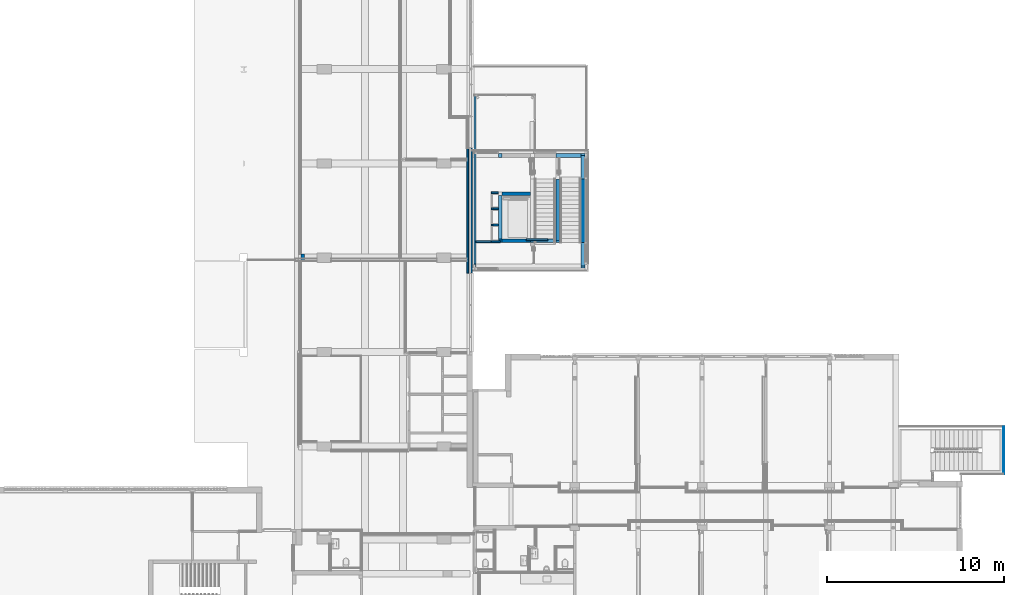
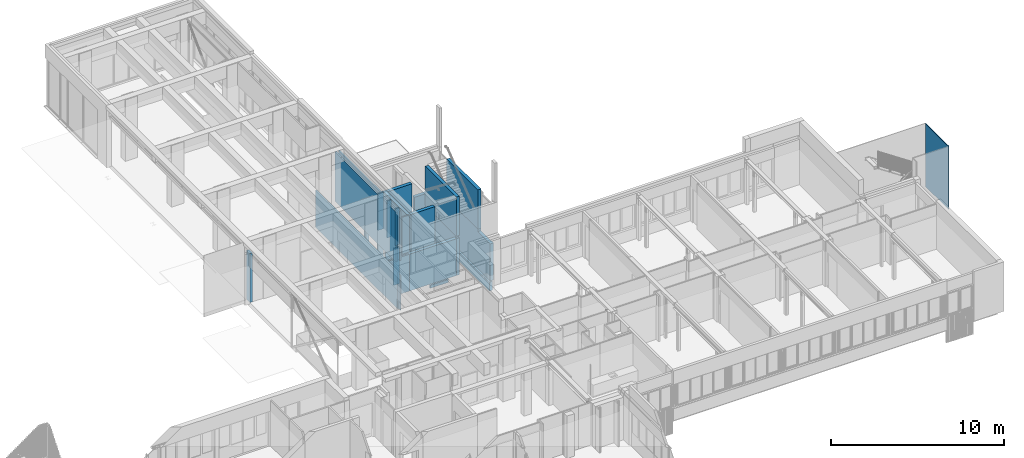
# One storey, part 70 of 117: 26 walls, 1 opening.
"""IFC2X3 building model written with IfcOpenShell, lengths in millimetres."""

from ifc_helpers import new_model, entity, si_unit, converted_unit, derived_unit, money_unit, direction, frame, origin_with_axes, place, context, subcontext, project, spatial, faceted_brep, material, type_object, element, save


model = new_model("IFC2X3")

# Units and contexts
model_context = context("Model", 3, precision=0.01, world=origin_with_axes(), true_north=direction((0.0, 1.0)))
body_context = subcontext(model_context, "Body", "Model", "MODEL_VIEW")
ifc_project = project(units=[si_unit("LENGTHUNIT", "METRE", prefix="MILLI"), si_unit("AREAUNIT", "SQUARE_METRE"), si_unit("VOLUMEUNIT", "CUBIC_METRE"), converted_unit("PLANEANGLEUNIT", "DEGREE", entity("IfcPlaneAngleMeasure", 0.0174532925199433), si_unit("PLANEANGLEUNIT", "RADIAN"), dimensions=[0, 0, 0, 0, 0, 0, 0]), money_unit("EUR"), converted_unit("TIMEUNIT", "Year", entity("IfcTimeMeasure", 31557600.0), si_unit("TIMEUNIT", "SECOND"), dimensions=[0, 0, 1, 0, 0, 0, 0]), si_unit("MASSUNIT", "GRAM", prefix="KILO"), si_unit("THERMODYNAMICTEMPERATUREUNIT", "DEGREE_CELSIUS"), si_unit("LUMINOUSINTENSITYUNIT", "LUMEN"), si_unit("ENERGYUNIT", "JOULE", prefix="MEGA"), derived_unit("THERMALCONDUCTANCEUNIT", [(si_unit("POWERUNIT", "WATT"), 1), (si_unit("LENGTHUNIT", "METRE"), -1), (si_unit("THERMODYNAMICTEMPERATUREUNIT", "KELVIN"), -1)]), derived_unit("SPECIFICHEATCAPACITYUNIT", [(si_unit("ENERGYUNIT", "JOULE"), 1), (si_unit("MASSUNIT", "GRAM", prefix="KILO"), -1), (si_unit("THERMODYNAMICTEMPERATUREUNIT", "KELVIN"), -1)]), derived_unit("MASSDENSITYUNIT", [(si_unit("MASSUNIT", "GRAM", prefix="KILO"), 1), (si_unit("VOLUMEUNIT", "CUBIC_METRE"), -1)])], contexts=[model_context])

# Site, building, storey
site_placement = place(None, origin_with_axes())
site = spatial("IfcSite", under=ifc_project, at=site_placement, Name="Site", CompositionType="ELEMENT")
building_placement = place(site_placement, origin_with_axes())
building = spatial("IfcBuilding", under=site, at=building_placement, Name="Naam gebouw", CompositionType="ELEMENT")
storey_placement = place(building_placement, frame((0.0, 0.0, 4150.0), z_axis=(0.0, 0.0, 1.0), x_axis=(1.0, 0.0, 0.0)))
storey = spatial("IfcBuildingStorey", under=building, at=storey_placement, Name="1e verdieping N", CompositionType="ELEMENT", Elevation=4150.0)

# Walls
ifc_material_1 = material(Name="ALG - CONSTRUCTIEF")
wall_type_1 = type_object("IfcWallType", Name="ALG - CONSTRUCTIEF 400", PredefinedType="NOTDEFINED")
wall_1_placement = place(storey_placement, frame((20536.0, 33285.91242510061, -299.9999999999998), z_axis=(0.0, 0.0, 1.0), x_axis=(1.0, 0.0, 0.0)))
element("IfcWall", 1, at=wall_1_placement, inside=storey, type_object=wall_type_1, material=ifc_material_1, Name="_Wand-x", context=body_context, shape_type="Brep", body=[
    faceted_brep([(0.0, 200.0000000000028, 299.9999999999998), (0.0, 200.0000000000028, 3749.999999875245), (189.0000000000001, 200.0000000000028, 3749.999999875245), (189.0000000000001, 200.0000000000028, 299.9999999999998), (0.0, -200.0000000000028, 299.9999999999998), (0.0, -200.0000000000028, 3749.999999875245), (189.0000000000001, -200.0000000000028, 3749.999999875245), (189.0000000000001, -200.0000000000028, 299.9999999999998)], [[[0, 1, 2, 3]], [[4, 5, 1, 0]], [[5, 6, 2, 1]], [[3, 2, 6, 7]], [[7, 4, 0, 3]], [[7, 6, 5, 4]]]),
])
ifc_material_2 = material(Name="Steen - Betonblok")
wall_type_2 = type_object("IfcWallType", Name="Steen - Betonblok 100", PredefinedType="NOTDEFINED")
wall_2_placement = place(storey_placement, frame((30136.0, 32415.9124251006, 0.0), z_axis=(0.0, 0.0, 1.0), x_axis=(0.0, 1.0, 0.0)))
element("IfcWall", 2, at=wall_2_placement, inside=storey, type_object=wall_type_2, material=ifc_material_2, Name="_Wand-x", context=body_context, shape_type="Brep", body=[
    faceted_brep([(7070.000000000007, -100.0000000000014, 3500.0), (0.0, -100.0000000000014, 3500.0), (0.0, -100.0000000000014, 0.0), (7070.000000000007, -100.0000000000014, 0.0), (6764.000001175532, -100.0000000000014, 1770.00000000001), (6764.000001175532, -100.0000000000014, 1600.00000000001), (296.0000011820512, -100.0000000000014, 1600.00000000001), (296.0000011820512, -100.0000000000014, 1770.00000000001), (7070.000000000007, 0.0, 3500.0), (0.0, 0.0, 3500.0), (0.0, 0.0, 0.0), (7070.000000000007, 0.0, 0.0), (6764.000001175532, -55.00000004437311, 1770.00000000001), (6764.000001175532, -55.00000004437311, 1600.00000000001), (296.0000011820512, -55.00000004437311, 1600.00000000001), (296.0000011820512, -55.00000004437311, 1770.00000000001)], [[[0, 1, 2, 3], [4, 5, 6, 7]], [[8, 9, 1, 0]], [[2, 1, 9, 10]], [[3, 2, 10, 11]], [[8, 0, 3, 11]], [[12, 13, 5, 4]], [[13, 14, 6, 5]], [[14, 15, 7, 6]], [[15, 12, 4, 7]], [[11, 10, 9, 8]], [[15, 14, 13, 12]]]),
])
wall_3_placement = place(storey_placement, frame((30006.0, 32415.9124251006, 0.0), z_axis=(0.0, 0.0, 1.0), x_axis=(0.0, 1.0, 0.0)))
element("IfcWall", 3, at=wall_3_placement, inside=storey, type_object=wall_type_2, material=ifc_material_2, Name="_Wand-x", context=body_context, shape_type="Brep", body=[
    faceted_brep([(7070.000000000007, 100.0000000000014, 3499.999999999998), (6400.000000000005, 100.0000000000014, 3499.999999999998), (6400.000000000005, 0.0, 3499.999999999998), (7070.000000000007, 0.0, 3499.999999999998), (6000.0, 100.0000000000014, 3450.0), (6400.000000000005, 100.0000000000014, 3450.0), (7070.000000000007, 100.0000000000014, 0.0), (0.0, 100.0000000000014, 0.0), (0.0, 100.0000000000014, 3499.999999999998), (670.0000000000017, 100.0000000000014, 3499.999999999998), (670.0000000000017, 100.0000000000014, 3449.999999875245), (1070.000000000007, 100.0000000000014, 3449.999999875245), (1070.000000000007, 100.0000000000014, 3499.999999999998), (6000.0, 100.0000000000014, 3499.999999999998), (6400.000000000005, 0.0, 3450.0), (6000.0, 0.0, 3450.0), (6000.0, 0.0, 3499.999999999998), (1070.000000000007, 0.0, 3499.999999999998), (1070.000000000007, 0.0, 3449.999999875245), (670.0000000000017, 0.0, 3449.999999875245), (670.0000000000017, 0.0, 3499.999999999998), (0.0, 0.0, 3499.999999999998), (0.0, 0.0, 0.0), (7070.000000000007, 0.0, 0.0)], [[[0, 1, 2, 3]], [[4, 5, 1, 0, 6, 7, 8, 9, 10, 11, 12, 13]], [[5, 14, 2, 1]], [[14, 15, 16, 17, 18, 19, 20, 21, 22, 23, 3, 2]], [[6, 0, 3, 23]], [[4, 15, 14, 5]], [[22, 7, 6, 23]], [[7, 22, 21, 8]], [[21, 20, 9, 8]], [[10, 9, 20, 19]], [[10, 19, 18, 11]], [[11, 18, 17, 12]], [[17, 16, 13, 12]], [[4, 13, 16, 15]]]),
])
ifc_material_3 = material(Name="ALG - ONTWERPWAND")
wall_type_3 = type_object("IfcWallType", Name="ALG - ONTWERPWAND 50", PredefinedType="NOTDEFINED")
wall_4_placement = place(storey_placement, frame((60214.99999999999, 21090.9124251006, 0.0), z_axis=(0.0, 0.0, 1.0), x_axis=(0.0, 1.0, 0.0)))
element("IfcWall", 4, at=wall_4_placement, inside=storey, type_object=wall_type_3, material=ifc_material_3, Name="_Wand-x", context=body_context, shape_type="Brep", body=[
    faceted_brep([(2630.000000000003, -49.99999999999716, 4439.999999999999), (2630.000000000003, 0.0, 4439.999999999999), (-50.00000000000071, 0.0, 4439.999999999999), (-50.00000000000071, -49.99999999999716, 4439.999999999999), (2630.000000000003, -49.99999999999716, 0.0), (2630.000000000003, 0.0, 0.0), (-50.00000000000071, 0.0, 0.0), (-50.00000000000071, -49.99999999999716, 0.0)], [[[0, 1, 2, 3]], [[1, 0, 4, 5]], [[1, 5, 6, 2]], [[7, 3, 2, 6]], [[4, 0, 3, 7]], [[5, 4, 7, 6]]]),
])
ifc_material_4 = material(Name="kalkzandsteen")
wall_type_4 = type_object("IfcWallType", Name="Basic Wall:NLRS_28_kalkzandsteen 100mm", PredefinedType="STANDARD")
wall_5_placement = place(storey_placement, frame((31792.00000003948, 36049.91242632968, -3770.00000000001), z_axis=(0.0, 0.0, 1.0), x_axis=(-1.0, 0.0, 0.0)))
element("IfcWall", 5, at=wall_5_placement, inside=storey, type_object=wall_type_4, material=ifc_material_4, Name="Basic Wall:NLRS_28_kalkzandsteen 100mm", context=body_context, shape_type="Brep", body=[
    faceted_brep([(106.999999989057, 49.99999998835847, 0.0), (500.0, 49.99999998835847, 0.0), (500.0, -50.00000004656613, 0.0), (106.999999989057, -50.00000004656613, 0.0), (106.999999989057, 49.99999998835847, 2600.000000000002), (500.0, 49.99999998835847, 2600.000000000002), (500.0, -50.00000004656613, 2600.000000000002), (106.999999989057, -50.00000004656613, 2600.000000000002)], [[[0, 1, 2, 3]], [[4, 5, 1, 0]], [[2, 1, 5, 6]], [[3, 2, 6, 7]], [[4, 0, 3, 7]], [[7, 6, 5, 4]]]),
])
wall_6_placement = place(storey_placement, frame((31685.00000002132, 36963.91242631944, -3770.00000000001), z_axis=(0.0, 0.0, 1.0), x_axis=(-1.0, 0.0, 0.0)))
element("IfcWall", 6, at=wall_6_placement, inside=storey, type_object=wall_type_4, material=ifc_material_4, Name="Basic Wall:NLRS_28_kalkzandsteen 100mm", context=body_context, shape_type="Brep", body=[
    faceted_brep([(0.0, 50.00000004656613, 0.0), (393.000000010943, 50.00000004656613, 0.0), (393.000000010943, -50.00000004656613, 0.0), (0.0, -50.00000004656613, 0.0), (0.0, 50.00000004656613, 2600.000000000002), (393.000000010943, 50.00000004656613, 2600.000000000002), (393.000000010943, -50.00000004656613, 2600.000000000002), (0.0, -50.00000004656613, 2600.000000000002)], [[[0, 1, 2, 3]], [[4, 5, 1, 0]], [[2, 1, 5, 6]], [[3, 2, 6, 7]], [[4, 0, 3, 7]], [[7, 6, 5, 4]]]),
])
wall_7_placement = place(storey_placement, frame((34475.00000002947, 34302.91242629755, -4150.000000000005), z_axis=(0.0, 0.0, 1.0), x_axis=(-1.0, 0.0, 0.0)))
element("IfcWall", 7, at=wall_7_placement, inside=storey, type_object=wall_type_4, material=ifc_material_4, Name="Basic Wall:NLRS_28_kalkzandsteen 100mm", context=body_context, shape_type="Brep", body=[
    faceted_brep([(-2.387423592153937e-09, 50.00000004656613, 0.0), (1219.999999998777, 50.00000010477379, 0.0), (1220.000000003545, -49.99999998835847, 0.0), (2.380318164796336e-09, -50.00000004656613, 0.0), (-2.387423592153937e-09, 50.00000004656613, 209.9999999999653), (1219.999999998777, 50.00000010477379, 209.9999999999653), (1220.000000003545, -49.99999998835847, 209.9999999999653), (2.380318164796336e-09, -50.00000004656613, 209.9999999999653)], [[[0, 1, 2, 3]], [[4, 5, 1, 0]], [[2, 1, 5, 6]], [[3, 2, 6, 7]], [[4, 0, 3, 7]], [[7, 6, 5, 4]]]),
])
wall_8_placement = place(storey_placement, frame((31792.00000003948, 35135.91242628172, -1000.0), z_axis=(0.0, 0.0, 1.0), x_axis=(-1.0, 1.293503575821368e-10, 0.0)))
element("IfcWall", 8, at=wall_8_placement, inside=storey, type_object=wall_type_4, material=ifc_material_4, Name="Basic Wall:NLRS_28_kalkzandsteen 100mm", context=body_context, shape_type="Brep", body=[
    faceted_brep([(399.9999999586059, 50.00000009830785, 0.0), (399.9999999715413, -49.99999999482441, 0.0), (106.9999999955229, -50.00000003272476, 0.0), (106.9999999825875, 50.0000000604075, 0.0), (399.9999999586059, 50.00000009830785, 2600.000000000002), (399.9999999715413, -49.99999999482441, 2600.000000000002), (106.9999999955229, -50.00000003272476, 2600.000000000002), (106.9999999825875, 50.0000000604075, 2600.000000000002)], [[[0, 1, 2, 3]], [[1, 0, 4, 5]], [[1, 5, 6, 2]], [[7, 3, 2, 6]], [[4, 0, 3, 7]], [[5, 4, 7, 6]]]),
])
wall_9_placement = place(storey_placement, frame((31792.00000003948, 36049.91242632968, -1000.0), z_axis=(0.0, 0.0, 1.0), x_axis=(-1.0, 0.0, 0.0)))
element("IfcWall", 9, at=wall_9_placement, inside=storey, type_object=wall_type_4, material=ifc_material_4, Name="Basic Wall:NLRS_28_kalkzandsteen 100mm", context=body_context, shape_type="Brep", body=[
    faceted_brep([(399.9999999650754, 50.00000004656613, 0.0), (399.9999999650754, -50.00000004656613, 0.0), (106.999999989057, -50.00000004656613, 0.0), (106.999999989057, 50.00000004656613, 0.0), (399.9999999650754, 50.00000004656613, 2600.000000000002), (399.9999999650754, -50.00000004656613, 2600.000000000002), (106.999999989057, -50.00000004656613, 2600.000000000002), (106.999999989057, 50.00000004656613, 2600.000000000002)], [[[0, 1, 2, 3]], [[1, 0, 4, 5]], [[1, 5, 6, 2]], [[7, 3, 2, 6]], [[4, 0, 3, 7]], [[5, 4, 7, 6]]]),
])
wall_10_placement = place(storey_placement, frame((31685.00000002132, 36963.91242631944, -1000.0), z_axis=(0.0, 0.0, 1.0), x_axis=(-1.0, 0.0, 0.0)))
element("IfcWall", 10, at=wall_10_placement, inside=storey, type_object=wall_type_4, material=ifc_material_4, Name="Basic Wall:NLRS_28_kalkzandsteen 100mm", context=body_context, shape_type="Brep", body=[
    faceted_brep([(392.9999999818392, 50.00000004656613, 0.0), (392.9999999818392, -50.00000004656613, 0.0), (0.0, -50.00000004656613, 0.0), (0.0, 50.00000004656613, 0.0), (392.9999999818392, 50.00000004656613, 2600.000000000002), (392.9999999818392, -50.00000004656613, 2600.000000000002), (0.0, -50.00000004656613, 2600.000000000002), (0.0, 50.00000004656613, 2600.000000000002)], [[[0, 1, 2, 3]], [[1, 0, 4, 5]], [[1, 5, 6, 2]], [[7, 3, 2, 6]], [[4, 0, 3, 7]], [[5, 4, 7, 6]]]),
])
wall_11_placement = place(storey_placement, frame((31792.00000003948, 34195.91242627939, -3770.00000000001), z_axis=(0.0, 0.0, 1.0), x_axis=(-1.0, 0.0, 0.0)))
element("IfcWall", 11, at=wall_11_placement, inside=storey, type_object=wall_type_4, material=ifc_material_4, Name="Basic Wall:NLRS_28_kalkzandsteen 100mm", context=body_context, shape_type="Brep", body=[
    faceted_brep([(1381.000000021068, 49.99999999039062, 0.0), (1381.000000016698, -50.00000004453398, 0.0), (-2.035704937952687e-09, -49.99999998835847, 0.0), (2.032152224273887e-09, 50.00000004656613, 0.0), (1381.000000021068, 49.99999999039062, 2600.000000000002), (1381.000000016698, -50.00000004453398, 2600.000000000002), (-2.035704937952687e-09, -49.99999998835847, 2600.000000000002), (2.032152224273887e-09, 50.00000004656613, 2600.000000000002)], [[[0, 1, 2, 3]], [[1, 0, 4, 5]], [[1, 5, 6, 2]], [[7, 3, 2, 6]], [[4, 0, 3, 7]], [[5, 4, 7, 6]]]),
])
wall_12_placement = place(storey_placement, frame((31792.00000003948, 34195.91242627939, -1000.0), z_axis=(0.0, 0.0, 1.0), x_axis=(-1.0, 0.0, 0.0)))
element("IfcWall", 12, at=wall_12_placement, inside=storey, type_object=wall_type_4, material=ifc_material_4, Name="Basic Wall:NLRS_28_kalkzandsteen 100mm", context=body_context, shape_type="Brep", body=[
    faceted_brep([(500.0, 50.00000004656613, 0.0), (500.0, -49.99999998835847, 0.0), (0.0, -49.99999998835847, 0.0), (0.0, 50.00000004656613, 0.0), (500.0, 50.00000004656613, 2600.000000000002), (500.0, -49.99999998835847, 2600.000000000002), (0.0, -49.99999998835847, 2600.000000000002), (0.0, 50.00000004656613, 2600.000000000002)], [[[0, 1, 2, 3]], [[1, 0, 4, 5]], [[1, 5, 6, 2]], [[7, 3, 2, 6]], [[4, 0, 3, 7]], [[5, 4, 7, 6]]]),
])
wall_13_placement = place(storey_placement, frame((30361.00000002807, 32818.9124262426, -3770.00000000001), z_axis=(0.0, 0.0, 1.0), x_axis=(0.0, 1.0, 0.0)))
element("IfcWall", 13, at=wall_13_placement, inside=storey, type_object=wall_type_4, material=ifc_material_4, Name="Basic Wall:NLRS_28_kalkzandsteen 100mm", context=body_context, shape_type="Brep", body=[
    faceted_brep([(9625.50000008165, 50.00000007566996, 2600.000000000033), (107.0000000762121, 50.00000004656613, 2600.000000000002), (107.0000000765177, -49.99999998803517, 2600.000000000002), (9625.500000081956, -49.99999995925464, 2600.000000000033), (9625.50000008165, 50.00000007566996, 0.0), (107.0000000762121, 50.00000004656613, 0.0), (107.0000000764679, -33.47296353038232, 2470.00000000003), (107.0000000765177, -49.99999998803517, 2470.00000000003), (107.0000000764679, -33.47296353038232, 0.0), (-106.9999999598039, -49.99999998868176, 2470.00000000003), (-106.9999999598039, -49.99999998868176, 0.0), (9625.500000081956, -49.99999995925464, 0.0), (-106.9999999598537, -33.4729635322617, 0.0), (-106.9999999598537, -33.4729635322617, 2470.00000000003)], [[[0, 1, 2, 3]], [[4, 5, 1, 0]], [[6, 7, 2, 1, 5, 8]], [[2, 7, 9, 10, 11, 3]], [[0, 3, 11, 4]], [[12, 8, 5, 4, 11, 10]], [[13, 9, 7, 6]], [[6, 8, 12, 13]], [[9, 13, 12, 10]]]),
])
wall_14_placement = place(storey_placement, frame((31792.00000003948, 35135.91242628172, -3770.00000000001), z_axis=(0.0, 0.0, 1.0), x_axis=(-1.0, 0.0, 0.0)))
element("IfcWall", 14, at=wall_14_placement, inside=storey, type_object=wall_type_4, material=ifc_material_4, Name="Basic Wall:NLRS_28_kalkzandsteen 100mm", context=body_context, shape_type="Brep", body=[
    faceted_brep([(106.999999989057, 49.99999998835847, 0.0), (499.9999999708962, 49.99999998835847, 0.0), (499.9999999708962, -50.00000004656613, 0.0), (106.999999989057, -50.00000004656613, 0.0), (106.999999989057, 49.99999998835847, 2600.000000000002), (499.9999999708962, 49.99999998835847, 2600.000000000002), (499.9999999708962, -50.00000004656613, 2600.000000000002), (106.999999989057, -50.00000004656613, 2600.000000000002)], [[[0, 1, 2, 3]], [[4, 5, 1, 0]], [[2, 1, 5, 6]], [[3, 2, 6, 7]], [[4, 0, 3, 7]], [[7, 6, 5, 4]]]),
])

# Wall, opening
wall_type_5 = type_object("IfcWallType", Name="Basic Wall:NLRS_28_kalkzandsteen 214mm", PredefinedType="STANDARD")
wall_15_placement = place(storey_placement, frame((35040.0000000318, 39072.91242631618, -3390.000000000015), z_axis=(0.0, 0.0, 1.0), x_axis=(1.0, 0.0, 0.0)))
wall_15 = element("IfcWall", 15, at=wall_15_placement, inside=storey, type_object=wall_type_5, material=ifc_material_4, Name="Basic Wall:NLRS_28_kalkzandsteen 214mm", context=body_context, shape_type="Brep", body=[
    faceted_brep([(1326.999999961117, 107.0000000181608, 0.0), (1326.999999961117, -107.0000000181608, 0.0), (-107.0000000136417, -107.0000000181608, 0.0), (-107.0000000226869, 107.0000000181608, 0.0), (1326.999999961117, -107.0000000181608, 2220.000000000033), (1326.999999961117, 107.0000000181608, 2220.000000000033), (-107.0000000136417, -107.0000000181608, 2220.000000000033), (-107.0000000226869, 107.0000000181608, 2220.000000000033)], [[[0, 1, 2, 3]], [[4, 1, 0, 5]], [[1, 4, 6, 2]], [[6, 7, 3, 2]], [[5, 0, 3, 7]], [[4, 5, 7, 6]]]),
])
opening_placement = place(wall_15_placement, frame((-35040.0000000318, -39072.91242631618, -759.999999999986), z_axis=(0.0, 0.0, 1.0), x_axis=(1.0, 0.0, 0.0)))
element("IfcOpeningElement", 16, at=opening_placement, cuts=wall_15, Name="Basic Wall:NLRS_28_kalkzandsteen 214mm", context=body_context, shape_type="Brep", body=[
    faceted_brep([(35147.00000003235, 37951.91242627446, 2736.999999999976), (35147.00000003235, 37951.91242627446, 379.9999999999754), (35147.0000000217, 38965.91242627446, 379.9999999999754), (35147.0000000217, 38965.91242627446, 2736.999999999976), (34933.00000003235, 37951.91242627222, 2736.999999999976), (34933.00000003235, 37951.91242627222, 379.9999999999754), (34933.0000000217, 38965.91242627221, 379.9999999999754), (34933.0000000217, 38965.91242627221, 2736.999999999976)], [[[0, 1, 2, 3]], [[0, 4, 5, 1]], [[1, 5, 6, 2]], [[3, 2, 6, 7]], [[4, 0, 3, 7]], [[5, 4, 7, 6]]]),
])

# Walls
wall_16_placement = place(storey_placement, frame((35040.0000000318, 34252.91242630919, -3770.00000000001), z_axis=(0.0, 0.0, 1.0), x_axis=(-1.0, 0.0, 0.0)))
element("IfcWall", 17, at=wall_16_placement, inside=storey, type_object=wall_type_5, material=ifc_material_4, Name="Basic Wall:NLRS_28_kalkzandsteen 214mm", context=body_context, shape_type="Brep", body=[
    faceted_brep([(3354.999999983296, 106.999999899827, 0.0), (3354.999999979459, -107.0000000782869, 0.0), (106.9999999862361, -107.0000000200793, 0.0), (106.9999999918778, 106.9999999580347, 0.0), (3354.999999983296, 106.999999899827, 2600.000000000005), (3354.999999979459, -107.0000000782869, 2600.000000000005), (106.9999999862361, -107.0000000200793, 2600.000000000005), (106.9999999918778, 106.9999999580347, 2600.000000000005)], [[[0, 1, 2, 3]], [[1, 0, 4, 5]], [[1, 5, 6, 2]], [[7, 3, 2, 6]], [[4, 0, 3, 7]], [[5, 4, 7, 6]]]),
])
wall_17_placement = place(storey_placement, frame((36474.00000004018, 39072.91242631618, -3770.00000000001), z_axis=(0.0, 0.0, 1.0), x_axis=(0.0, -1.0, 0.0)))
element("IfcWall", 18, at=wall_17_placement, inside=storey, type_object=wall_type_5, material=ifc_material_4, Name="Basic Wall:NLRS_28_kalkzandsteen 214mm", context=body_context, shape_type="Brep", body=[
    faceted_brep([(1327.000000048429, -107.0000000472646, 2770.00000000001), (4927.000000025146, -107.0000000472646, 2770.00000000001), (4927.000000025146, 106.999999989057, 2770.00000000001), (1327.000000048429, 106.999999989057, 2770.00000000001), (6254.000000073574, -107.0000000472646, 2600.00000000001), (4927.000000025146, -107.0000000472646, 2600.00000000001), (1327.000000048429, -107.0000000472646, 2600.00000000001), (0.0, -107.0000000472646, 2600.00000000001), (-107.0000000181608, -107.0000000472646, 2600.000000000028), (-107.0000000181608, -107.0000000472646, 379.9999999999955), (0.0, -107.0000000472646, 379.9999999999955), (0.0, -107.0000000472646, 0.0), (6361.000000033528, -107.0000000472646, 0.0), (6361.000000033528, -107.0000000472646, 2600.000000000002), (4927.000000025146, 106.999999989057, 2600.00000000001), (6361.000000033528, 106.999999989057, 2600.000000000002), (6361.000000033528, 106.999999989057, 0.0), (0.0, 106.999999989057, 0.0), (0.0, 106.999999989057, 379.9999999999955), (-107.0000000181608, 106.999999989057, 379.9999999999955), (-107.0000000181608, 106.999999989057, 2600.000000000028), (1327.000000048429, 106.999999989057, 2600.00000000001)], [[[0, 1, 2, 3]], [[4, 5, 1, 0, 6, 7, 8, 9, 10, 11, 12, 13]], [[5, 14, 2, 1]], [[2, 14, 15, 16, 17, 18, 19, 20, 21, 3]], [[6, 0, 3, 21]], [[15, 14, 5, 4, 13]], [[8, 7, 6, 21, 20]], [[19, 9, 8, 20]], [[18, 10, 9, 19]], [[11, 10, 18, 17]], [[11, 17, 16, 12]], [[13, 12, 16, 15]]]),
])
wall_18_placement = place(storey_placement, frame((31792.00000003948, 36906.91242634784, -3770.00000000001), z_axis=(0.0, 0.0, 1.0), x_axis=(0.0, -1.0, 0.0)))
element("IfcWall", 19, at=wall_18_placement, inside=storey, type_object=wall_type_5, material=ifc_material_4, Name="Basic Wall:NLRS_28_kalkzandsteen 214mm", context=body_context, shape_type="Brep", body=[
    faceted_brep([(2547.000000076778, 107.0000000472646, 0.0), (107.0000000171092, 107.0000000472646, 0.0), (107.0000000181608, 107.0000000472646, 2600.000000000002), (2547.000000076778, 107.0000000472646, 2600.000000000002), (2547.000000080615, -106.999999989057, 0.0), (107.0000000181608, -106.999999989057, 0.0), (107.0000000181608, -106.999999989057, 2600.000000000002), (2547.000000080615, -106.999999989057, 2600.000000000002)], [[[0, 1, 2, 3]], [[4, 5, 1, 0]], [[5, 6, 2, 1]], [[3, 2, 6, 7]], [[4, 0, 3, 7]], [[7, 6, 5, 4]]]),
])
for number, where, z_axis, x_axis, name in (
    (20, (36474.00000001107, 37745.91242626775, -1000.0), (0.0, 0.0, 1.0), (0.0, -1.0, 0.0), "Basic Wall:NLRS_28_kalkzandsteen 214mm"),
    (21, (35040.0000000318, 34145.91242629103, -1000.0), (0.0, 0.0, 1.0), (0.0, 1.0, 0.0), "Basic Wall:NLRS_28_kalkzandsteen 214mm"),
):
    element("IfcWall", number, at=place(storey_placement, frame(where, z_axis=z_axis, x_axis=x_axis)), inside=storey, type_object=wall_type_5, material=ifc_material_4, Name=name, context=body_context, shape_type="Brep", body=[
        faceted_brep([(0.0, 107.0000000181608, 0.0), (3599.999999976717, 107.0000000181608, 0.0), (3599.999999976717, -106.999999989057, 0.0), (0.0, -106.999999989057, 0.0), (0.0, 107.0000000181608, 2770.0), (3599.999999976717, 107.0000000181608, 2770.0), (3599.999999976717, -106.999999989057, 2770.0), (0.0, -106.999999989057, 2770.0)], [[[0, 1, 2, 3]], [[4, 5, 1, 0]], [[2, 1, 5, 6]], [[3, 2, 6, 7]], [[4, 0, 3, 7]], [[7, 6, 5, 4]]]),
    ])
wall_19_placement = place(storey_placement, frame((31792.00000003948, 36906.91242634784, -1000.0), z_axis=(0.0, 0.0, 1.0), x_axis=(1.0, 0.0, 0.0)))
element("IfcWall", 22, at=wall_19_placement, inside=storey, type_object=wall_type_5, material=ifc_material_4, Name="Basic Wall:NLRS_28_kalkzandsteen 214mm", context=body_context, shape_type="Brep", body=[
    faceted_brep([(1706.999999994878, 107.0000000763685, 0.0), (1706.999999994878, -107.0000000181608, 0.0), (107.0000000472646, -107.0000000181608, 0.0), (107.0000000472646, 107.0000000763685, 0.0), (1706.999999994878, 107.0000000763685, 2600.000000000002), (1706.999999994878, -107.0000000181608, 2600.000000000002), (107.0000000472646, -107.0000000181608, 2600.000000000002), (107.0000000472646, 107.0000000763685, 2600.000000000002)], [[[0, 1, 2, 3]], [[1, 0, 4, 5]], [[1, 5, 6, 2]], [[7, 3, 2, 6]], [[4, 0, 3, 7]], [[5, 4, 7, 6]]]),
])
wall_20_placement = place(storey_placement, frame((31792.00000003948, 36906.91242634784, -1000.0), z_axis=(0.0, 0.0, 1.0), x_axis=(0.0, -1.0, 0.0)))
element("IfcWall", 23, at=wall_20_placement, inside=storey, type_object=wall_type_5, material=ifc_material_4, Name="Basic Wall:NLRS_28_kalkzandsteen 214mm", context=body_context, shape_type="Brep", body=[
    faceted_brep([(2761.000000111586, 107.0000000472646, 0.0), (2761.00000011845, -106.999999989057, 0.0), (-107.0000000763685, -106.999999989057, 0.0), (-107.0000000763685, 107.0000000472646, 0.0), (2761.000000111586, 107.0000000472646, 2600.000000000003), (2761.00000011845, -106.999999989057, 2600.000000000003), (-107.0000000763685, -106.999999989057, 2600.000000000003), (-107.0000000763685, 107.0000000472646, 2600.000000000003)], [[[0, 1, 2, 3]], [[1, 0, 4, 5]], [[1, 5, 6, 2]], [[7, 3, 2, 6]], [[4, 0, 3, 7]], [[5, 4, 7, 6]]]),
])
wall_21_placement = place(storey_placement, frame((31685.00000002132, 39072.91242631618, -3770.00000000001), z_axis=(0.0, 0.0, 1.0), x_axis=(1.0, 0.0, 0.0)))
element("IfcWall", 24, at=wall_21_placement, inside=storey, type_object=wall_type_5, material=ifc_material_4, Name="Basic Wall:NLRS_28_kalkzandsteen 214mm", context=body_context, shape_type="Brep", body=[
    faceted_brep([(0.0, 107.0000000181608, 0.0), (214.0000000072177, 107.0000000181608, 0.0), (214.0000000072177, -107.0000000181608, 0.0), (0.0, -107.0000000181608, 0.0), (0.0, 107.0000000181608, 2600.000000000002), (214.0000000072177, 107.0000000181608, 2600.000000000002), (214.0000000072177, -107.0000000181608, 2600.000000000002), (0.0, -107.0000000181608, 2600.000000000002)], [[[0, 1, 2, 3]], [[4, 5, 1, 0]], [[2, 1, 5, 6]], [[3, 2, 6, 7]], [[4, 0, 3, 7]], [[7, 6, 5, 4]]]),
])
wall_22_placement = place(storey_placement, frame((36474.00000004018, 39072.91242631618, -4569.999999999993), z_axis=(0.0, 0.0, 1.0), x_axis=(0.0, -1.0, 0.0)))
element("IfcWall", 25, at=wall_22_placement, inside=storey, type_object=wall_type_5, material=ifc_material_4, Name="Basic Wall:NLRS_28_kalkzandsteen 214mm", context=body_context, shape_type="Brep", body=[
    faceted_brep([(-4.973799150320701e-10, -106.999999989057, 0.0), (-4.973799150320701e-10, -106.999999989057, 629.9999999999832), (4.973799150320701e-10, 106.000000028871, 629.9999999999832), (4.973799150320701e-10, 106.000000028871, 799.999999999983), (4.973799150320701e-10, 106.999999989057, 799.9999999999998), (4.973799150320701e-10, 106.999999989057, 0.0), (6254.000000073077, -107.0000000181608, 0.0), (6254.000000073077, -107.0000000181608, 629.9999999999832), (6254.000000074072, 105.9999999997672, 629.9999999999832), (6254.000000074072, 105.9999999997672, 799.999999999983), (6254.000000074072, 106.9999999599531, 799.9999999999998), (6254.000000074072, 106.9999999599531, 0.0)], [[[0, 1, 2, 3, 4, 5]], [[6, 7, 1, 0]], [[8, 2, 1, 7]], [[8, 9, 3, 2]], [[4, 3, 9, 10]], [[5, 4, 10, 11]], [[0, 5, 11, 6]], [[9, 8, 7, 6, 11, 10]]]),
])
wall_23_placement = place(storey_placement, frame((33606.00000005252, 34252.91242630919, -1000.0), z_axis=(0.0, 0.0, 1.0), x_axis=(-1.0, 0.0, 0.0)))
element("IfcWall", 26, at=wall_23_placement, inside=storey, type_object=wall_type_5, material=ifc_material_4, Name="Basic Wall:NLRS_28_kalkzandsteen 214mm", context=body_context, shape_type="Brep", body=[
    faceted_brep([(1706.999999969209, 106.9999999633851, 0.0), (1706.999999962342, -107.0000000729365, 0.0), (107.0000000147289, -107.0000000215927, 0.0), (107.0000000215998, 107.0000000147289, 0.0), (1706.999999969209, 106.9999999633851, 2600.000000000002), (1706.999999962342, -107.0000000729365, 2600.000000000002), (107.0000000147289, -107.0000000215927, 2600.000000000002), (107.0000000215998, 107.0000000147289, 2600.000000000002)], [[[0, 1, 2, 3]], [[1, 0, 4, 5]], [[1, 5, 6, 2]], [[7, 3, 2, 6]], [[4, 0, 3, 7]], [[5, 4, 7, 6]]]),
])
wall_24_placement = place(storey_placement, frame((35040.0000000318, 34252.91242630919, -3770.00000000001), z_axis=(0.0, 0.0, 1.0), x_axis=(0.0, 1.0, 0.0)))
element("IfcWall", 27, at=wall_24_placement, inside=storey, type_object=wall_type_5, material=ifc_material_4, Name="Basic Wall:NLRS_28_kalkzandsteen 214mm", context=body_context, shape_type="Brep", body=[
    faceted_brep([(-1.811883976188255e-09, 106.999999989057, 2600.000000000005), (-106.9999999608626, 106.9999999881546, 2600.000000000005), (-106.9999999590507, -106.9999999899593, 2600.000000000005), (0.0, -106.999999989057, 2600.000000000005), (3443.000000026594, 107.0000000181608, 0.0), (-106.9999999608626, 106.9999999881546, 0.0), (-1.811883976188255e-09, 106.999999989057, 2770.0), (3443.000000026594, 107.0000000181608, 2770.0), (-106.9999999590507, -106.9999999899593, 0.0), (3443.000000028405, -106.9999999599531, 0.0), (3443.000000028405, -106.9999999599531, 2770.0), (0.0, -106.999999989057, 2770.0)], [[[0, 1, 2, 3]], [[4, 5, 1, 0, 6, 7]], [[5, 8, 2, 1]], [[3, 2, 8, 9, 10, 11]], [[0, 3, 11, 6]], [[9, 8, 5, 4]], [[7, 6, 11, 10]], [[10, 9, 4, 7]]]),
])

save(model, "model.ifc")
